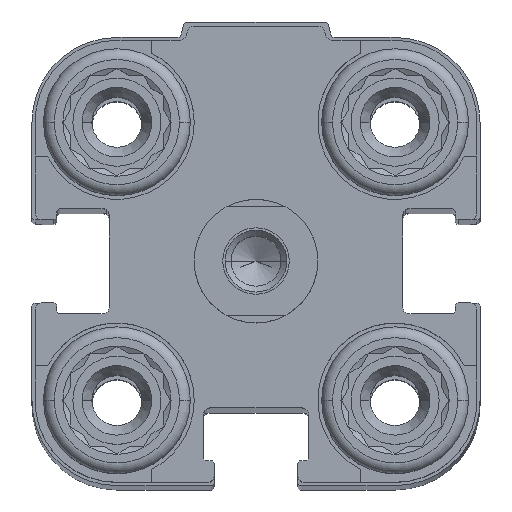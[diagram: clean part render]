
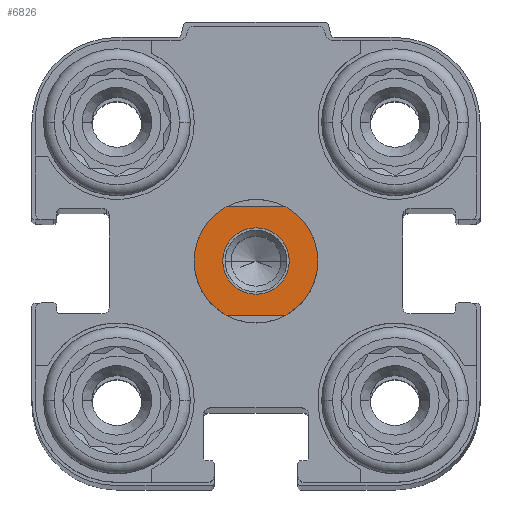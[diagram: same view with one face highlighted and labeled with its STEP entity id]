
A CAD part, top view. The second image highlights one B-rep face of the part: STEP entity #6826.
In plain terms, the highlighted planar face has unit normal (0, 0, 1).
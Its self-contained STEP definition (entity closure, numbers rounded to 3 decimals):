
#379 = CARTESIAN_POINT ( 'NONE',  ( 0., 0., 4.5 ) ) ;
#740 = EDGE_CURVE ( 'NONE', #3102, #16583, #12838, .T. ) ;
#804 = FACE_OUTER_BOUND ( 'NONE', #3320, .T. ) ;
#1551 = VERTEX_POINT ( 'NONE', #6719 ) ;
#1555 = CARTESIAN_POINT ( 'NONE',  ( 0., 0., 4.5 ) ) ;
#1990 = AXIS2_PLACEMENT_3D ( 'NONE', #1555, #8642, #7028 ) ;
#2179 = DIRECTION ( 'NONE',  ( -1., 0., 0. ) ) ;
#2831 = ORIENTED_EDGE ( 'NONE', *, *, #4510, .T. ) ;
#3102 = VERTEX_POINT ( 'NONE', #17571 ) ;
#3320 = EDGE_LOOP ( 'NONE', ( #14114, #9325, #8511, #5240, #12617, #6464 ) ) ;
#3361 = EDGE_LOOP ( 'NONE', ( #2831, #17635 ) ) ;
#3658 = EDGE_CURVE ( 'NONE', #13097, #3963, #9725, .T. ) ;
#3690 = EDGE_CURVE ( 'NONE', #1551, #14768, #16186, .T. ) ;
#3753 = CARTESIAN_POINT ( 'NONE',  ( -7., 3.5, 4.5 ) ) ;
#3792 = DIRECTION ( 'NONE',  ( 0., 0., -1. ) ) ;
#3902 = DIRECTION ( 'NONE',  ( 0., 0., -1. ) ) ;
#3963 = VERTEX_POINT ( 'NONE', #4234 ) ;
#4000 = VECTOR ( 'NONE', #2179, 1000. ) ;
#4234 = CARTESIAN_POINT ( 'NONE',  ( 4., 0., 4.5 ) ) ;
#4331 = VERTEX_POINT ( 'NONE', #6061 ) ;
#4451 = DIRECTION ( 'NONE',  ( -1., 0., 0. ) ) ;
#4510 = EDGE_CURVE ( 'NONE', #4331, #15506, #12184, .T. ) ;
#4989 = CARTESIAN_POINT ( 'NONE',  ( -1.936, 3.5, 4.5 ) ) ;
#5240 = ORIENTED_EDGE ( 'NONE', *, *, #3690, .F. ) ;
#5398 = AXIS2_PLACEMENT_3D ( 'NONE', #10869, #6633, #13556 ) ;
#5623 = DIRECTION ( 'NONE',  ( 0., 0., -1. ) ) ;
#6061 = CARTESIAN_POINT ( 'NONE',  ( -2.15, 0., 4.5 ) ) ;
#6273 = CARTESIAN_POINT ( 'NONE',  ( 0., 0., 4.5 ) ) ;
#6388 = AXIS2_PLACEMENT_3D ( 'NONE', #13450, #5623, #4451 ) ;
#6464 = ORIENTED_EDGE ( 'NONE', *, *, #3658, .F. ) ;
#6594 = CARTESIAN_POINT ( 'NONE',  ( -1.936, -3.5, 4.5 ) ) ;
#6633 = DIRECTION ( 'NONE',  ( 0., 0., -1. ) ) ;
#6719 = CARTESIAN_POINT ( 'NONE',  ( 1.936, -3.5, 4.5 ) ) ;
#6826 = ADVANCED_FACE ( 'NONE', ( #804, #11939 ), #7708, .F. ) ;
#6869 = EDGE_CURVE ( 'NONE', #16583, #13097, #10591, .T. ) ;
#7028 = DIRECTION ( 'NONE',  ( -1., 0., 0. ) ) ;
#7523 = AXIS2_PLACEMENT_3D ( 'NONE', #6273, #10329, #11767 ) ;
#7708 = PLANE ( 'NONE',  #7523 ) ;
#7834 = CIRCLE ( 'NONE', #12705, 4. ) ;
#7835 = DIRECTION ( 'NONE',  ( -1., 0., 0. ) ) ;
#7971 = CARTESIAN_POINT ( 'NONE',  ( 1.936, 3.5, 4.5 ) ) ;
#8511 = ORIENTED_EDGE ( 'NONE', *, *, #16284, .F. ) ;
#8642 = DIRECTION ( 'NONE',  ( 0., 0., -1. ) ) ;
#9099 = AXIS2_PLACEMENT_3D ( 'NONE', #379, #11613, #12684 ) ;
#9182 = CARTESIAN_POINT ( 'NONE',  ( 0., 0., 4.5 ) ) ;
#9289 = DIRECTION ( 'NONE',  ( -1., 0., 0. ) ) ;
#9325 = ORIENTED_EDGE ( 'NONE', *, *, #740, .F. ) ;
#9725 = CIRCLE ( 'NONE', #1990, 4. ) ;
#9828 = CIRCLE ( 'NONE', #6388, 4. ) ;
#10115 = VECTOR ( 'NONE', #14710, 1000. ) ;
#10329 = DIRECTION ( 'NONE',  ( 0., 0., -1. ) ) ;
#10473 = CARTESIAN_POINT ( 'NONE',  ( 0., 0., 4.5 ) ) ;
#10539 = CARTESIAN_POINT ( 'NONE',  ( 7., -3.5, 4.5 ) ) ;
#10591 = LINE ( 'NONE', #3753, #10115 ) ;
#10869 = CARTESIAN_POINT ( 'NONE',  ( 0., 0., 4.5 ) ) ;
#11060 = EDGE_CURVE ( 'NONE', #3963, #1551, #7834, .T. ) ;
#11487 = EDGE_CURVE ( 'NONE', #15506, #4331, #16877, .T. ) ;
#11613 = DIRECTION ( 'NONE',  ( 0., 0., -1. ) ) ;
#11767 = DIRECTION ( 'NONE',  ( 0., 1., 0. ) ) ;
#11911 = AXIS2_PLACEMENT_3D ( 'NONE', #10473, #3902, #9289 ) ;
#11939 = FACE_BOUND ( 'NONE', #3361, .T. ) ;
#12184 = CIRCLE ( 'NONE', #11911, 2.15 ) ;
#12617 = ORIENTED_EDGE ( 'NONE', *, *, #11060, .F. ) ;
#12684 = DIRECTION ( 'NONE',  ( -1., 0., 0. ) ) ;
#12705 = AXIS2_PLACEMENT_3D ( 'NONE', #9182, #3792, #7835 ) ;
#12838 = CIRCLE ( 'NONE', #9099, 4. ) ;
#13097 = VERTEX_POINT ( 'NONE', #7971 ) ;
#13450 = CARTESIAN_POINT ( 'NONE',  ( 0., 0., 4.5 ) ) ;
#13556 = DIRECTION ( 'NONE',  ( -1., 0., 0. ) ) ;
#14014 = CARTESIAN_POINT ( 'NONE',  ( 2.15, 0., 4.5 ) ) ;
#14114 = ORIENTED_EDGE ( 'NONE', *, *, #6869, .F. ) ;
#14710 = DIRECTION ( 'NONE',  ( 1., 0., 0. ) ) ;
#14768 = VERTEX_POINT ( 'NONE', #6594 ) ;
#15506 = VERTEX_POINT ( 'NONE', #14014 ) ;
#16186 = LINE ( 'NONE', #10539, #4000 ) ;
#16284 = EDGE_CURVE ( 'NONE', #14768, #3102, #9828, .T. ) ;
#16583 = VERTEX_POINT ( 'NONE', #4989 ) ;
#16877 = CIRCLE ( 'NONE', #5398, 2.15 ) ;
#17571 = CARTESIAN_POINT ( 'NONE',  ( -4., 0., 4.5 ) ) ;
#17635 = ORIENTED_EDGE ( 'NONE', *, *, #11487, .T. ) ;
